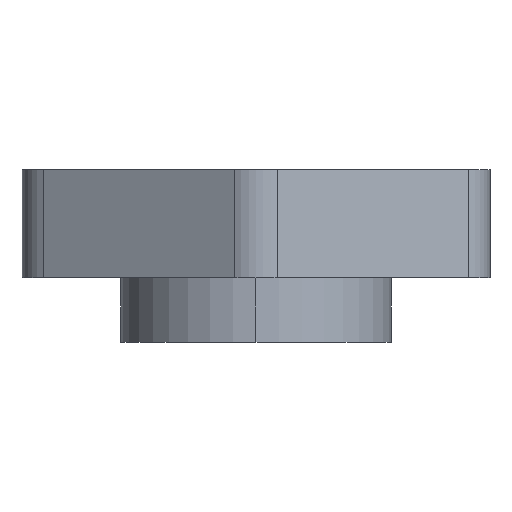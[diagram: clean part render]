
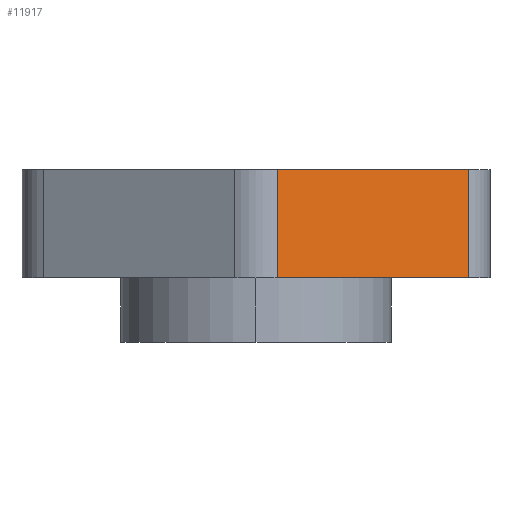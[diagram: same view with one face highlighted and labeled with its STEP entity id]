
A CAD part, left-side view. The second image highlights one B-rep face of the part: STEP entity #11917.
In plain terms, the highlighted planar face has unit normal (-0.866, -0.5, 0).
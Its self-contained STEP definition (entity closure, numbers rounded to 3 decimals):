
#44 = DIRECTION ( 'NONE',  ( 0.5, -0.866, 0. ) ) ;
#425 = CARTESIAN_POINT ( 'NONE',  ( -12.123, -1., 0. ) ) ;
#537 = CARTESIAN_POINT ( 'NONE',  ( -12.7, 0., -5.08 ) ) ;
#714 = VERTEX_POINT ( 'NONE', #425 ) ;
#742 = EDGE_CURVE ( 'NONE', #714, #9701, #11968, .T. ) ;
#1081 = EDGE_CURVE ( 'NONE', #6819, #9701, #2241, .T. ) ;
#1645 = LINE ( 'NONE', #11348, #3691 ) ;
#2241 = LINE ( 'NONE', #13043, #8757 ) ;
#2727 = EDGE_CURVE ( 'NONE', #10968, #6819, #11022, .T. ) ;
#2869 = EDGE_LOOP ( 'NONE', ( #12351, #12766, #3851, #12120 ) ) ;
#2969 = FACE_OUTER_BOUND ( 'NONE', #2869, .T. ) ;
#3062 = CARTESIAN_POINT ( 'NONE',  ( -6.927, -9.999, 0. ) ) ;
#3300 = CARTESIAN_POINT ( 'NONE',  ( -6.927, -9.999, -5.08 ) ) ;
#3517 = VECTOR ( 'NONE', #9205, 1000. ) ;
#3691 = VECTOR ( 'NONE', #4324, 1000. ) ;
#3851 = ORIENTED_EDGE ( 'NONE', *, *, #2727, .T. ) ;
#4324 = DIRECTION ( 'NONE',  ( 0., 0., -1. ) ) ;
#5087 = CARTESIAN_POINT ( 'NONE',  ( -12.123, -1., -5.08 ) ) ;
#5520 = DIRECTION ( 'NONE',  ( -0.866, -0.5, 0. ) ) ;
#6791 = AXIS2_PLACEMENT_3D ( 'NONE', #537, #5520, #12588 ) ;
#6819 = VERTEX_POINT ( 'NONE', #3300 ) ;
#8086 = DIRECTION ( 'NONE',  ( 0., 0., 1. ) ) ;
#8380 = EDGE_CURVE ( 'NONE', #714, #10968, #1645, .T. ) ;
#8757 = VECTOR ( 'NONE', #8086, 1000. ) ;
#9068 = CARTESIAN_POINT ( 'NONE',  ( -12.7, 0., 0. ) ) ;
#9205 = DIRECTION ( 'NONE',  ( 0.5, -0.866, 0. ) ) ;
#9701 = VERTEX_POINT ( 'NONE', #3062 ) ;
#10506 = PLANE ( 'NONE',  #6791 ) ;
#10968 = VERTEX_POINT ( 'NONE', #5087 ) ;
#11022 = LINE ( 'NONE', #11097, #11167 ) ;
#11097 = CARTESIAN_POINT ( 'NONE',  ( -12.7, 0., -5.08 ) ) ;
#11167 = VECTOR ( 'NONE', #44, 1000. ) ;
#11348 = CARTESIAN_POINT ( 'NONE',  ( -12.123, -1., -5.08 ) ) ;
#11917 = ADVANCED_FACE ( 'NONE', ( #2969 ), #10506, .T. ) ;
#11968 = LINE ( 'NONE', #9068, #3517 ) ;
#12120 = ORIENTED_EDGE ( 'NONE', *, *, #1081, .T. ) ;
#12351 = ORIENTED_EDGE ( 'NONE', *, *, #742, .F. ) ;
#12588 = DIRECTION ( 'NONE',  ( 0.5, -0.866, 0. ) ) ;
#12766 = ORIENTED_EDGE ( 'NONE', *, *, #8380, .T. ) ;
#13043 = CARTESIAN_POINT ( 'NONE',  ( -6.927, -9.999, -5.08 ) ) ;
